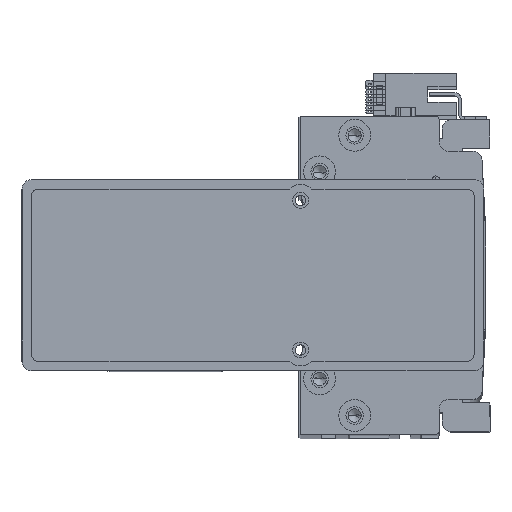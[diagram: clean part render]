
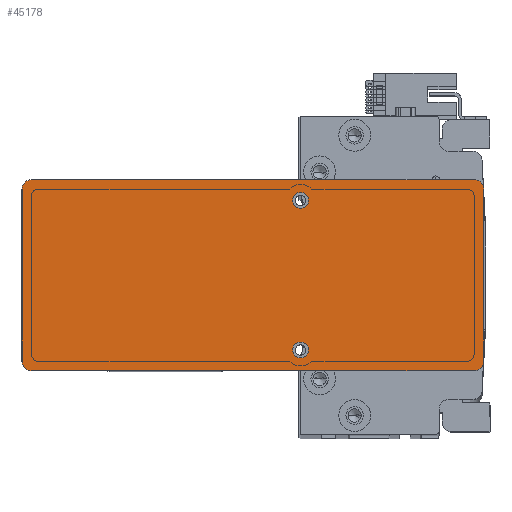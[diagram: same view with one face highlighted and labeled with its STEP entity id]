
A CAD part, top view. The second image highlights one B-rep face of the part: STEP entity #45178.
In plain terms, the highlighted planar face has unit normal (0, 0, 1) as drawn and (0, 0, -1) by its records, which use the part's own axes.
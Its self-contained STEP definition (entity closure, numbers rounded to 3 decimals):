
#272 = CARTESIAN_POINT ( 'NONE',  ( 69.5, 30., 0. ) ) ;
#357 = CARTESIAN_POINT ( 'NONE',  ( 72.5, -30., 0. ) ) ;
#1309 = CARTESIAN_POINT ( 'NONE',  ( 0., 0., 0. ) ) ;
#1505 = EDGE_CURVE ( 'NONE', #8402, #32181, #9290, .T. ) ;
#2491 = CARTESIAN_POINT ( 'NONE',  ( 69.5, 27., 0. ) ) ;
#3180 = DIRECTION ( 'NONE',  ( 0., 1., 0. ) ) ;
#3752 = EDGE_CURVE ( 'NONE', #16501, #41862, #17540, .T. ) ;
#4980 = DIRECTION ( 'NONE',  ( 1., 0., 0. ) ) ;
#5381 = VERTEX_POINT ( 'NONE', #24041 ) ;
#5526 = AXIS2_PLACEMENT_3D ( 'NONE', #6321, #31898, #9982 ) ;
#6192 = DIRECTION ( 'NONE',  ( 1., 0., 0. ) ) ;
#6224 = AXIS2_PLACEMENT_3D ( 'NONE', #34508, #12588, #38179 ) ;
#6321 = CARTESIAN_POINT ( 'NONE',  ( 69.5, -27., 0. ) ) ;
#6501 = CARTESIAN_POINT ( 'NONE',  ( 15., 23.5, 0. ) ) ;
#6658 = FACE_BOUND ( 'NONE', #35133, .T. ) ;
#8079 = AXIS2_PLACEMENT_3D ( 'NONE', #13910, #39466, #17591 ) ;
#8402 = VERTEX_POINT ( 'NONE', #9448 ) ;
#8544 = PLANE ( 'NONE',  #11878 ) ;
#8691 = CIRCLE ( 'NONE', #8079, 3. ) ;
#9290 = CIRCLE ( 'NONE', #12319, 2.5 ) ;
#9448 = CARTESIAN_POINT ( 'NONE',  ( 12.5, -23.5, 0. ) ) ;
#9872 = VERTEX_POINT ( 'NONE', #28164 ) ;
#9922 = EDGE_CURVE ( 'NONE', #41214, #5381, #8691, .T. ) ;
#9982 = DIRECTION ( 'NONE',  ( 1., 0., 0. ) ) ;
#10162 = DIRECTION ( 'NONE',  ( -1., 0., 0. ) ) ;
#10188 = ORIENTED_EDGE ( 'NONE', *, *, #46295, .F. ) ;
#10248 = LINE ( 'NONE', #10544, #37160 ) ;
#10544 = CARTESIAN_POINT ( 'NONE',  ( 72.5, -30., 0. ) ) ;
#10789 = AXIS2_PLACEMENT_3D ( 'NONE', #12142, #37735, #15847 ) ;
#11878 = AXIS2_PLACEMENT_3D ( 'NONE', #1309, #26967, #4980 ) ;
#12040 = CARTESIAN_POINT ( 'NONE',  ( 17.5, -23.5, 0. ) ) ;
#12100 = ORIENTED_EDGE ( 'NONE', *, *, #1505, .F. ) ;
#12142 = CARTESIAN_POINT ( 'NONE',  ( 15., -23.5, 0. ) ) ;
#12319 = AXIS2_PLACEMENT_3D ( 'NONE', #15323, #40882, #19006 ) ;
#12588 = DIRECTION ( 'NONE',  ( 0., 0., -1. ) ) ;
#13910 = CARTESIAN_POINT ( 'NONE',  ( -69.5, -27., 0. ) ) ;
#14952 = DIRECTION ( 'NONE',  ( 1., 0., 0. ) ) ;
#15323 = CARTESIAN_POINT ( 'NONE',  ( 15., -23.5, 0. ) ) ;
#15847 = DIRECTION ( 'NONE',  ( -1., 0., 0. ) ) ;
#15963 = CIRCLE ( 'NONE', #10789, 2.5 ) ;
#16386 = FACE_OUTER_BOUND ( 'NONE', #33922, .T. ) ;
#16501 = VERTEX_POINT ( 'NONE', #18236 ) ;
#16576 = DIRECTION ( 'NONE',  ( 0., -1., 0. ) ) ;
#16746 = AXIS2_PLACEMENT_3D ( 'NONE', #6501, #32069, #10162 ) ;
#17540 = CIRCLE ( 'NONE', #16746, 2.5 ) ;
#17591 = DIRECTION ( 'NONE',  ( 1., 0., 0. ) ) ;
#17708 = ORIENTED_EDGE ( 'NONE', *, *, #25662, .T. ) ;
#17726 = VERTEX_POINT ( 'NONE', #272 ) ;
#17736 = ORIENTED_EDGE ( 'NONE', *, *, #3752, .F. ) ;
#18043 = EDGE_CURVE ( 'NONE', #17726, #32431, #20047, .T. ) ;
#18236 = CARTESIAN_POINT ( 'NONE',  ( 17.5, 23.5, 0. ) ) ;
#19006 = DIRECTION ( 'NONE',  ( -1., 0., 0. ) ) ;
#19069 = AXIS2_PLACEMENT_3D ( 'NONE', #42339, #20448, #45996 ) ;
#19632 = DIRECTION ( 'NONE',  ( -1., 0., 0. ) ) ;
#20047 = CIRCLE ( 'NONE', #31290, 3. ) ;
#20094 = ORIENTED_EDGE ( 'NONE', *, *, #46423, .F. ) ;
#20134 = CIRCLE ( 'NONE', #6224, 3. ) ;
#20270 = CARTESIAN_POINT ( 'NONE',  ( -72.5, -30., 0. ) ) ;
#20448 = DIRECTION ( 'NONE',  ( 0., 0., -1. ) ) ;
#23278 = CARTESIAN_POINT ( 'NONE',  ( -69.5, 30., 0. ) ) ;
#23773 = EDGE_CURVE ( 'NONE', #41862, #16501, #23935, .T. ) ;
#23852 = ORIENTED_EDGE ( 'NONE', *, *, #23773, .F. ) ;
#23935 = CIRCLE ( 'NONE', #19069, 2.5 ) ;
#24041 = CARTESIAN_POINT ( 'NONE',  ( -72.5, -27., 0. ) ) ;
#24148 = CIRCLE ( 'NONE', #5526, 3. ) ;
#24365 = CARTESIAN_POINT ( 'NONE',  ( -72.5, 27., 0. ) ) ;
#25218 = ORIENTED_EDGE ( 'NONE', *, *, #18043, .T. ) ;
#25662 = EDGE_CURVE ( 'NONE', #45372, #40912, #20134, .T. ) ;
#26967 = DIRECTION ( 'NONE',  ( 0., 0., 1. ) ) ;
#27869 = LINE ( 'NONE', #357, #37577 ) ;
#28003 = VECTOR ( 'NONE', #16576, 1000. ) ;
#28131 = DIRECTION ( 'NONE',  ( 0., 0., -1. ) ) ;
#28164 = CARTESIAN_POINT ( 'NONE',  ( 72.5, -27., 0. ) ) ;
#28303 = ORIENTED_EDGE ( 'NONE', *, *, #36831, .T. ) ;
#28341 = EDGE_CURVE ( 'NONE', #9872, #32431, #10248, .T. ) ;
#28479 = ORIENTED_EDGE ( 'NONE', *, *, #37769, .F. ) ;
#29705 = VERTEX_POINT ( 'NONE', #35449 ) ;
#29896 = ORIENTED_EDGE ( 'NONE', *, *, #28341, .F. ) ;
#30439 = EDGE_LOOP ( 'NONE', ( #23852, #17736 ) ) ;
#31290 = AXIS2_PLACEMENT_3D ( 'NONE', #2491, #28131, #6192 ) ;
#31898 = DIRECTION ( 'NONE',  ( 0., 0., -1. ) ) ;
#32069 = DIRECTION ( 'NONE',  ( 0., 0., -1. ) ) ;
#32181 = VERTEX_POINT ( 'NONE', #12040 ) ;
#32431 = VERTEX_POINT ( 'NONE', #46693 ) ;
#32501 = CARTESIAN_POINT ( 'NONE',  ( 12.5, 23.5, 0. ) ) ;
#33922 = EDGE_LOOP ( 'NONE', ( #29896, #28303, #34970, #40911, #20094, #17708, #10188, #25218 ) ) ;
#34508 = CARTESIAN_POINT ( 'NONE',  ( -69.5, 27., 0. ) ) ;
#34970 = ORIENTED_EDGE ( 'NONE', *, *, #45034, .F. ) ;
#35133 = EDGE_LOOP ( 'NONE', ( #12100, #28479 ) ) ;
#35449 = CARTESIAN_POINT ( 'NONE',  ( 69.5, -30., 0. ) ) ;
#36831 = EDGE_CURVE ( 'NONE', #9872, #29705, #24148, .T. ) ;
#37160 = VECTOR ( 'NONE', #3180, 1000. ) ;
#37577 = VECTOR ( 'NONE', #14952, 1000. ) ;
#37706 = LINE ( 'NONE', #20270, #28003 ) ;
#37735 = DIRECTION ( 'NONE',  ( 0., 0., -1. ) ) ;
#37769 = EDGE_CURVE ( 'NONE', #32181, #8402, #15963, .T. ) ;
#38179 = DIRECTION ( 'NONE',  ( 1., 0., 0. ) ) ;
#39466 = DIRECTION ( 'NONE',  ( 0., 0., -1. ) ) ;
#40882 = DIRECTION ( 'NONE',  ( 0., 0., -1. ) ) ;
#40911 = ORIENTED_EDGE ( 'NONE', *, *, #9922, .T. ) ;
#40912 = VERTEX_POINT ( 'NONE', #23278 ) ;
#41214 = VERTEX_POINT ( 'NONE', #44330 ) ;
#41862 = VERTEX_POINT ( 'NONE', #32501 ) ;
#42339 = CARTESIAN_POINT ( 'NONE',  ( 15., 23.5, 0. ) ) ;
#43428 = VECTOR ( 'NONE', #19632, 1000. ) ;
#44330 = CARTESIAN_POINT ( 'NONE',  ( -69.5, -30., 0. ) ) ;
#44582 = LINE ( 'NONE', #45209, #43428 ) ;
#45034 = EDGE_CURVE ( 'NONE', #41214, #29705, #27869, .T. ) ;
#45178 = ADVANCED_FACE ( 'NONE', ( #45564, #6658, #16386 ), #8544, .F. ) ;
#45209 = CARTESIAN_POINT ( 'NONE',  ( 72.5, 30., 0. ) ) ;
#45372 = VERTEX_POINT ( 'NONE', #24365 ) ;
#45564 = FACE_BOUND ( 'NONE', #30439, .T. ) ;
#45996 = DIRECTION ( 'NONE',  ( -1., 0., 0. ) ) ;
#46295 = EDGE_CURVE ( 'NONE', #17726, #40912, #44582, .T. ) ;
#46423 = EDGE_CURVE ( 'NONE', #45372, #5381, #37706, .T. ) ;
#46693 = CARTESIAN_POINT ( 'NONE',  ( 72.5, 27., 0. ) ) ;
